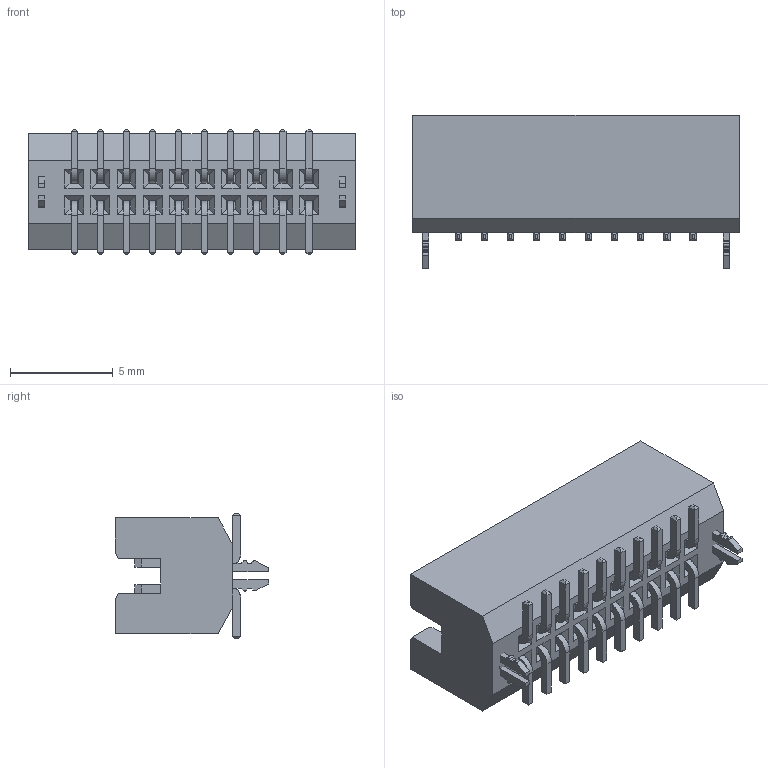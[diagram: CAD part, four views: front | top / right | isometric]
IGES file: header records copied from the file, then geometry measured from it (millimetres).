
Start section: SolidWorks IGES file using analytic representation for surfaces
Global section: file name: D:\RD03\QC-3DS\未歸檔資料\2216-20C00DLT\2216-20C00DLT.IGS; native system: SolidWorks 2011; preprocessor: SolidWorks 2011; author: rd03; date: 150423.181850; units: millimetre
Bounding box: 15.88 x 7.45 x 6.1 mm (x, y, z)
Surface area: 794.6 mm2 (no closed solid volume)
Topology: 0 solids, 0 shells, 806 faces, 4758 edges, 4758 vertices
Faces by surface type: bspline 646, revolution 160
